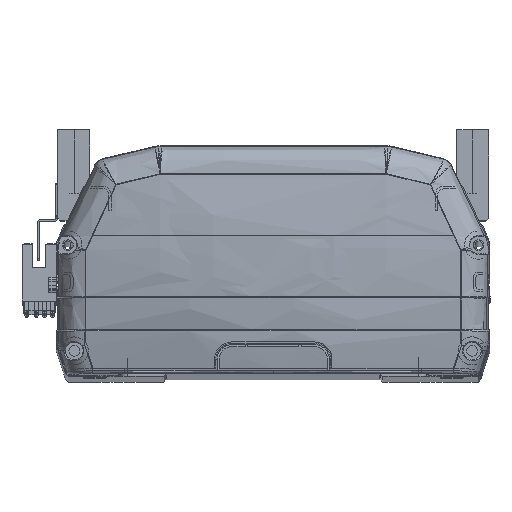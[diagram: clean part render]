
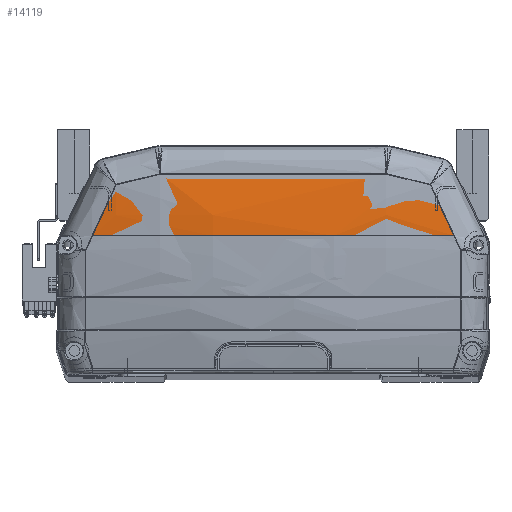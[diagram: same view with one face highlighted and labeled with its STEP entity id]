
A CAD part, top view. The second image highlights one B-rep face of the part: STEP entity #14119.
In plain terms, the highlighted toroidal (fillet/blend) face has major radius 312.5 mm and minor radius 572.4 mm.
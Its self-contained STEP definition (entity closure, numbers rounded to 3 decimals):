
#152 = VERTEX_POINT ( 'NONE', #32624 ) ;
#989 = CARTESIAN_POINT ( 'NONE',  ( 61.718, 75.278, -4.232 ) ) ;
#1129 = CARTESIAN_POINT ( 'NONE',  ( -69.472, 58.454, -4.329 ) ) ;
#2012 = FACE_OUTER_BOUND ( 'NONE', #23334, .T. ) ;
#2448 = B_SPLINE_CURVE_WITH_KNOTS ( 'NONE', 3,
 ( #19156, #35845, #16292, #2871, #25757, #6158 ),
 .UNSPECIFIED., .F., .F.,
 ( 4, 2, 4 ),
 ( 0., 0.044, 0.089 ),
 .UNSPECIFIED. ) ;
#2609 = EDGE_CURVE ( 'NONE', #32221, #27014, #2448, .T. ) ;
#2871 = CARTESIAN_POINT ( 'NONE',  ( 14.805, 79.361, -1.235 ) ) ;
#3689 = AXIS2_PLACEMENT_3D ( 'NONE', #8205, #40712, #7922 ) ;
#4458 = B_SPLINE_CURVE_WITH_KNOTS ( 'NONE', 3,
 ( #26984, #1129, #40039, #10697, #39631, #13965 ),
 .UNSPECIFIED., .F., .F.,
 ( 4, 2, 4 ),
 ( 0.006, 0.017, 0.029 ),
 .UNSPECIFIED. ) ;
#5700 = VERTEX_POINT ( 'NONE', #31737 ) ;
#6158 = CARTESIAN_POINT ( 'NONE',  ( 44.331, 79.443, -2.97 ) ) ;
#6697 = CARTESIAN_POINT ( 'NONE',  ( 50.132, 78.049, -3.29 ) ) ;
#7922 = DIRECTION ( 'NONE',  ( 0., 0., 1. ) ) ;
#8205 = CARTESIAN_POINT ( 'NONE',  ( 0., 55.096, -572.5 ) ) ;
#9496 = CARTESIAN_POINT ( 'NONE',  ( 44.331, 79.443, -2.97 ) ) ;
#10697 = CARTESIAN_POINT ( 'NONE',  ( -64.813, 68.545, -4.11 ) ) ;
#10749 = EDGE_CURVE ( 'NONE', #27014, #27511, #11663, .T. ) ;
#11663 = B_SPLINE_CURVE_WITH_KNOTS ( 'NONE', 3,
 ( #26300, #6697, #32821, #989 ),
 .UNSPECIFIED., .F., .F.,
 ( 4, 4 ),
 ( 0., 0.018 ),
 .UNSPECIFIED. ) ;
#12448 = DIRECTION ( 'NONE',  ( 1., 0., 0. ) ) ;
#12825 = CARTESIAN_POINT ( 'NONE',  ( -61.718, 75.278, -4.232 ) ) ;
#13244 = CARTESIAN_POINT ( 'NONE',  ( -55.929, 76.661, -3.711 ) ) ;
#13750 = TOROIDAL_SURFACE ( 'NONE', #36570, -312.5, 572.4 ) ;
#13965 = CARTESIAN_POINT ( 'NONE',  ( -61.718, 75.278, -4.232 ) ) ;
#14119 = ADVANCED_FACE ( 'NONE', ( #2012 ), #13750, .T. ) ;
#15781 = ORIENTED_EDGE ( 'NONE', *, *, #2609, .F. ) ;
#16109 = CARTESIAN_POINT ( 'NONE',  ( -50.132, 78.049, -3.29 ) ) ;
#16252 = CARTESIAN_POINT ( 'NONE',  ( 64.811, 68.545, -4.037 ) ) ;
#16292 = CARTESIAN_POINT ( 'NONE',  ( -14.788, 79.361, -1.235 ) ) ;
#18227 = ORIENTED_EDGE ( 'NONE', *, *, #34718, .F. ) ;
#18434 = EDGE_CURVE ( 'NONE', #27511, #21445, #30597, .T. ) ;
#19156 = CARTESIAN_POINT ( 'NONE',  ( -44.331, 79.443, -2.97 ) ) ;
#19391 = CARTESIAN_POINT ( 'NONE',  ( 61.718, 75.278, -4.232 ) ) ;
#19728 = CIRCLE ( 'NONE', #3689, 572.4 ) ;
#21445 = VERTEX_POINT ( 'NONE', #33798 ) ;
#22289 = DIRECTION ( 'NONE',  ( 0., 0., -1. ) ) ;
#22676 = CARTESIAN_POINT ( 'NONE',  ( 71.027, 55.096, -4.524 ) ) ;
#23080 = CARTESIAN_POINT ( 'NONE',  ( -44.331, 79.443, -2.97 ) ) ;
#23334 = EDGE_LOOP ( 'NONE', ( #18227, #35709, #41525, #28333, #15781, #38894 ) ) ;
#25757 = CARTESIAN_POINT ( 'NONE',  ( 29.579, 79.389, -1.814 ) ) ;
#25914 = EDGE_CURVE ( 'NONE', #5700, #32221, #36581, .T. ) ;
#26300 = CARTESIAN_POINT ( 'NONE',  ( 44.331, 79.443, -2.97 ) ) ;
#26984 = CARTESIAN_POINT ( 'NONE',  ( -71.027, 55.096, -4.524 ) ) ;
#27014 = VERTEX_POINT ( 'NONE', #9496 ) ;
#27511 = VERTEX_POINT ( 'NONE', #33383 ) ;
#28333 = ORIENTED_EDGE ( 'NONE', *, *, #10749, .F. ) ;
#30597 = B_SPLINE_CURVE_WITH_KNOTS ( 'NONE', 3,
 ( #19391, #16252, #35527, #22676 ),
 .UNSPECIFIED., .F., .F.,
 ( 4, 4 ),
 ( 0., 0.022 ),
 .UNSPECIFIED. ) ;
#31737 = CARTESIAN_POINT ( 'NONE',  ( -61.718, 75.278, -4.232 ) ) ;
#32221 = VERTEX_POINT ( 'NONE', #37311 ) ;
#32624 = CARTESIAN_POINT ( 'NONE',  ( -71.027, 55.096, -4.524 ) ) ;
#32821 = CARTESIAN_POINT ( 'NONE',  ( 55.929, 76.66, -3.711 ) ) ;
#33383 = CARTESIAN_POINT ( 'NONE',  ( 61.718, 75.278, -4.232 ) ) ;
#33798 = CARTESIAN_POINT ( 'NONE',  ( 71.027, 55.096, -4.524 ) ) ;
#34316 = EDGE_CURVE ( 'NONE', #152, #21445, #19728, .T. ) ;
#34718 = EDGE_CURVE ( 'NONE', #152, #5700, #4458, .T. ) ;
#35435 = CARTESIAN_POINT ( 'NONE',  ( 0., 55.096, -260. ) ) ;
#35527 = CARTESIAN_POINT ( 'NONE',  ( 67.917, 61.809, -4.135 ) ) ;
#35709 = ORIENTED_EDGE ( 'NONE', *, *, #34316, .T. ) ;
#35845 = CARTESIAN_POINT ( 'NONE',  ( -29.579, 79.39, -1.814 ) ) ;
#36570 = AXIS2_PLACEMENT_3D ( 'NONE', #35435, #12448, #22289 ) ;
#36581 = B_SPLINE_CURVE_WITH_KNOTS ( 'NONE', 3,
 ( #12825, #13244, #16109, #23080 ),
 .UNSPECIFIED., .F., .F.,
 ( 4, 4 ),
 ( 0., 0.018 ),
 .UNSPECIFIED. ) ;
#37311 = CARTESIAN_POINT ( 'NONE',  ( -44.331, 79.443, -2.97 ) ) ;
#38894 = ORIENTED_EDGE ( 'NONE', *, *, #25914, .F. ) ;
#39631 = CARTESIAN_POINT ( 'NONE',  ( -63.264, 71.911, -4.135 ) ) ;
#40039 = CARTESIAN_POINT ( 'NONE',  ( -67.917, 61.816, -4.208 ) ) ;
#40712 = DIRECTION ( 'NONE',  ( 0., 1., 0. ) ) ;
#41525 = ORIENTED_EDGE ( 'NONE', *, *, #18434, .F. ) ;
